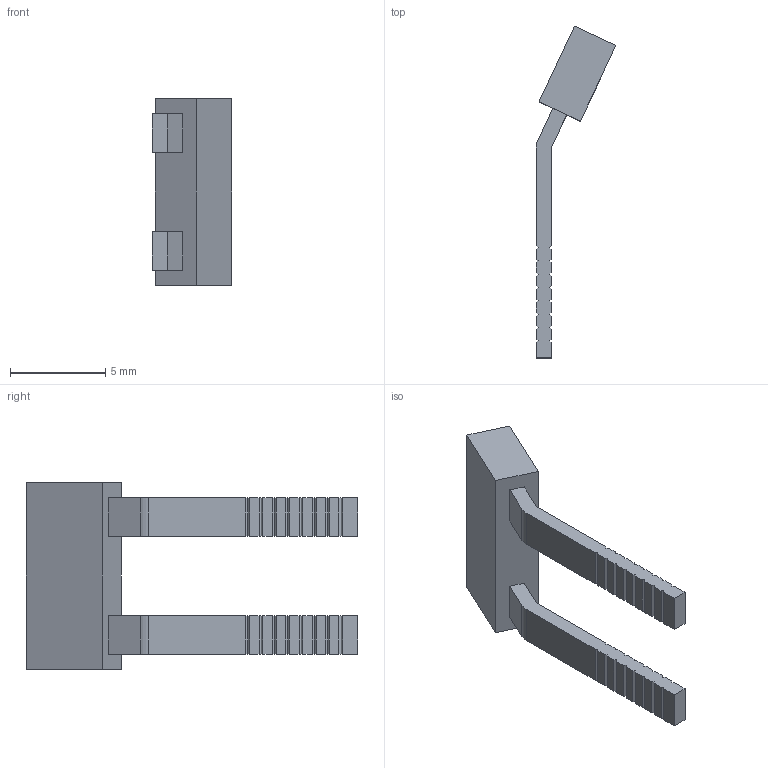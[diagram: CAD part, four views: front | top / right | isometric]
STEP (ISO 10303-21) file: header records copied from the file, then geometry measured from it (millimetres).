
FILE_DESCRIPTION(('Open CASCADE Model'),'2;1');
FILE_NAME('Open CASCADE Shape Model','2023-12-20T15:20:57',('Author'),( 'Open CASCADE'),'Open CASCADE STEP processor 6.5','Open CASCADE 6.5' ,'Unknown');
FILE_SCHEMA(('AUTOMOTIVE_DESIGN { 1 0 10303 214 1 1 1 1 }'));
Length unit declared in the file: millimetre
Products named in the file (119): CADSOFTTOOLS 6; CADSOFTTOOLS 6.1; CADSOFTTOOLS 6.2; CADSOFTTOOLS 6.3; CADSOFTTOOLS 6.4; CADSOFTTOOLS 6.5; CADSOFTTOOLS 6.6; CADSOFTTOOLS 6.7; CADSOFTTOOLS 6.8; CADSOFTTOOLS 6.9; CADSOFTTOOLS 6.10; CADSOFTTOOLS 6.11; CADSOFTTOOLS 6.12; CADSOFTTOOLS 6.13; CADSOFTTOOLS 6.14; CADSOFTTOOLS 6.15; CADSOFTTOOLS 6.16; CADSOFTTOOLS 6.17; CADSOFTTOOLS 6.18; CADSOFTTOOLS 6.19; CADSOFTTOOLS 6.20; CADSOFTTOOLS 6.21; CADSOFTTOOLS 6.22; CADSOFTTOOLS 6.23; CADSOFTTOOLS 6.24; CADSOFTTOOLS 6.25; CADSOFTTOOLS 6.26; CADSOFTTOOLS 6.27; CADSOFTTOOLS 6.28; CADSOFTTOOLS 6.29; CADSOFTTOOLS 6.30; CADSOFTTOOLS 6.31; CADSOFTTOOLS 6.32; CADSOFTTOOLS 6.33; CADSOFTTOOLS 6.34; CADSOFTTOOLS 6.35; CADSOFTTOOLS 6.36; CADSOFTTOOLS 6.37; CADSOFTTOOLS 6.38; CADSOFTTOOLS 6.39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
Assembly tree (118 placements, depth 2):
  CADSOFTTOOLS 6
    CADSOFTTOOLS 6.1
    CADSOFTTOOLS 6.2
    CADSOFTTOOLS 6.3
    CADSOFTTOOLS 6.4
    CADSOFTTOOLS 6.5
    CADSOFTTOOLS 6.6
    CADSOFTTOOLS 6.7
    CADSOFTTOOLS 6.8
    CADSOFTTOOLS 6.9
    CADSOFTTOOLS 6.10
    CADSOFTTOOLS 6.11
    CADSOFTTOOLS 6.12
    CADSOFTTOOLS 6.13
    CADSOFTTOOLS 6.14
    CADSOFTTOOLS 6.15
    CADSOFTTOOLS 6.16
    CADSOFTTOOLS 6.17
    CADSOFTTOOLS 6.18
    CADSOFTTOOLS 6.19
    CADSOFTTOOLS 6.20
    CADSOFTTOOLS 6.21
    CADSOFTTOOLS 6.22
    CADSOFTTOOLS 6.23
    CADSOFTTOOLS 6.24
    CADSOFTTOOLS 6.25
    CADSOFTTOOLS 6.26
    CADSOFTTOOLS 6.27
    CADSOFTTOOLS 6.28
    CADSOFTTOOLS 6.29
    CADSOFTTOOLS 6.30
    CADSOFTTOOLS 6.31
    CADSOFTTOOLS 6.32
    CADSOFTTOOLS 6.33
    CADSOFTTOOLS 6.34
    CADSOFTTOOLS 6.35
    CADSOFTTOOLS 6.36
    CADSOFTTOOLS 6.37
    CADSOFTTOOLS 6.38
    CADSOFTTOOLS 6.39
    CADSOFTTOOLS 6.40
    CADSOFTTOOLS 6.41
    CADSOFTTOOLS 6.42
    CADSOFTTOOLS 6.43
    CADSOFTTOOLS 6.44
    CADSOFTTOOLS 6.45
    CADSOFTTOOLS 6.46
    CADSOFTTOOLS 6.47
    CADSOFTTOOLS 6.48
    CADSOFTTOOLS 6.49
    CADSOFTTOOLS 6.50
    CADSOFTTOOLS 6.51
    CADSOFTTOOLS 6.52
    CADSOFTTOOLS 6.53
    CADSOFTTOOLS 6.54
    CADSOFTTOOLS 6.55
    CADSOFTTOOLS 6.56
    CADSOFTTOOLS 6.57
    CADSOFTTOOLS 6.58
    CADSOFTTOOLS 6.59
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Bounding box: 4.19 x 17.43 x 9.8 mm (x, y, z)
Surface area: 306 mm2 (no closed solid volume)
Topology: 0 solids, 118 shells, 118 faces, 684 edges, 684 vertices
Faces by surface type: plane 116, cylinder 2
Entity records: 13584 total; most frequent: CARTESIAN_POINT 2297, DIRECTION 1842, LINE 1348, VECTOR 1348, ORIENTED_EDGE 684, EDGE_CURVE 684, VERTEX_POINT 684, SURFACE_CURVE 684
